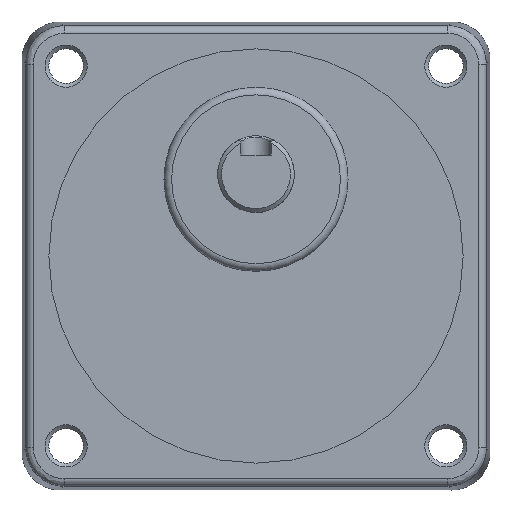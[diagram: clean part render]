
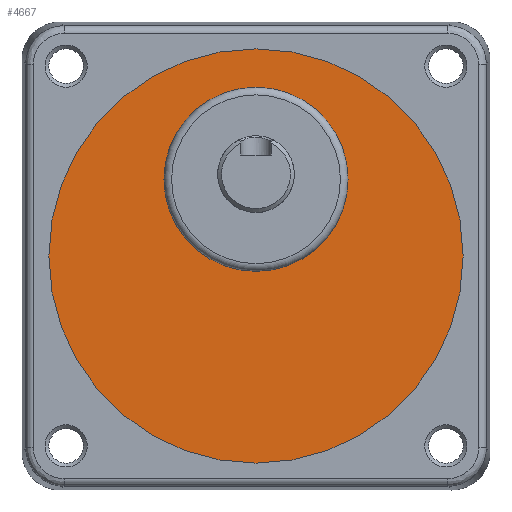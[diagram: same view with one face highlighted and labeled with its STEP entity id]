
A CAD part, front view. The second image highlights one B-rep face of the part: STEP entity #4667.
In plain terms, the highlighted planar face has unit normal (0, -1, 0).
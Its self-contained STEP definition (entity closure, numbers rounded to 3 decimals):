
#4108=CARTESIAN_POINT('',(12.,-27.5,10.));
#4109=VERTEX_POINT('',#4108);
#4110=CARTESIAN_POINT('',(0.,-27.5,10.0));
#4111=DIRECTION('',(0.0,1.0,0.0));
#4112=DIRECTION('',(-1.0,0.0,0.0));
#4113=AXIS2_PLACEMENT_3D('',#4110,#4111,#4112);
#4114=CIRCLE('',#4113,12.);
#4115=EDGE_CURVE('',#4109,#4109,#4114,.T.);
#4641=CARTESIAN_POINT('',(27.0,-27.5,0.));
#4642=VERTEX_POINT('',#4641);
#4643=CARTESIAN_POINT('',(0.0,-27.5,0.0));
#4644=DIRECTION('',(0.0,-1.0,0.0));
#4645=DIRECTION('',(-1.0,0.0,0.0));
#4646=AXIS2_PLACEMENT_3D('',#4643,#4644,#4645);
#4647=CIRCLE('',#4646,27.0);
#4648=EDGE_CURVE('',#4642,#4642,#4647,.T.);
#4656=CARTESIAN_POINT('',(0.0,-27.5,0.0));
#4657=DIRECTION('',(0.0,1.0,0.0));
#4658=DIRECTION('',(0.0,0.0,1.0));
#4659=AXIS2_PLACEMENT_3D('',#4656,#4657,#4658);
#4660=PLANE('',#4659);
#4661=ORIENTED_EDGE('',*,*,#4648,.T.);
#4662=EDGE_LOOP('',(#4661));
#4663=FACE_OUTER_BOUND('',#4662,.T.);
#4664=ORIENTED_EDGE('',*,*,#4115,.T.);
#4665=EDGE_LOOP('',(#4664));
#4666=FACE_BOUND('',#4665,.T.);
#4667=ADVANCED_FACE('',(#4663,#4666),#4660,.F.);
